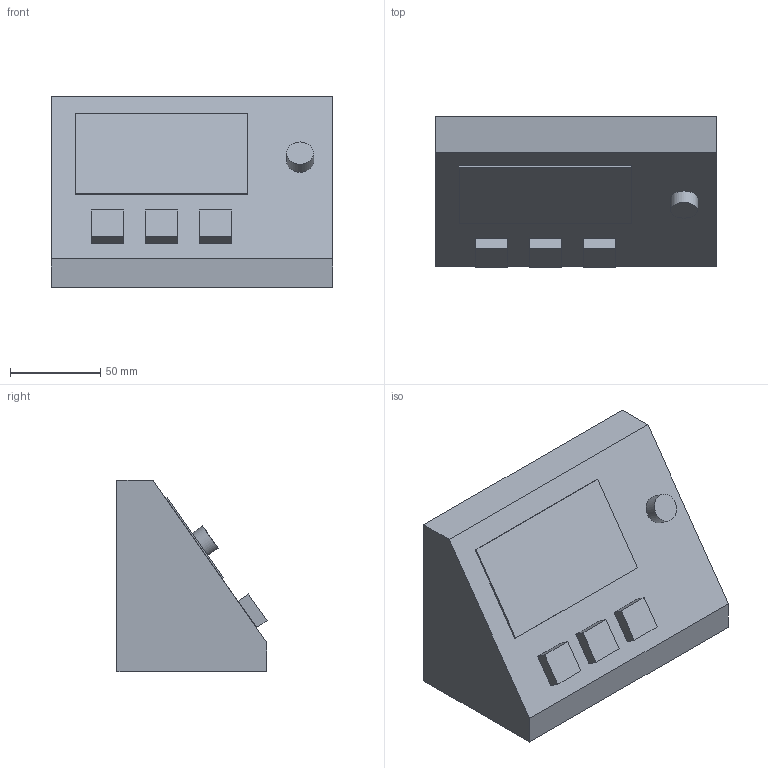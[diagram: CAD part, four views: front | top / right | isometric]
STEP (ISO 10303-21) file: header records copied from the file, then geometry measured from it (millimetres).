
FILE_DESCRIPTION(('Open CASCADE Model'),'2;1');
FILE_NAME('Open CASCADE Shape Model','2026-10-21T00:25:04',('Author'),( 'Open CASCADE'),'Open CASCADE STEP processor 7.9','Open CASCADE 7.9' ,'Unknown');
FILE_SCHEMA(('AUTOMOTIVE_DESIGN { 1 0 10303 214 1 1 1 1 }'));
Length unit declared in the file: millimetre
Products named in the file (13): SpotifyDeskRevB_sharp; case; display_envelope; visible; knob; encoder_envelope; aw9523b; keycap_1; switch_envelope_1; keycap_2; switch_envelope_2; keycap_3; switch_envelope_3
Assembly tree (12 placements, depth 2):
  SpotifyDeskRevB_sharp
    case
    display_envelope
    visible
    knob
    encoder_envelope
    aw9523b
    keycap_1
    switch_envelope_1
    keycap_2
    switch_envelope_2
    keycap_3
    switch_envelope_3
Bounding box: 156 x 83.26 x 106.11 mm (x, y, z)
Volume: 215214.2 mm3; surface area: 134812.2 mm2
Topology: 12 solids, 12 shells, 98 faces, 216 edges, 144 vertices
Faces by surface type: plane 96, cylinder 2
Full cylindrical faces by diameter (mm): 7.3 x1, 15.1 x1
Entity records: 5703 total; most frequent: CARTESIAN_POINT 989, DIRECTION 793, LINE 560, VECTOR 560, ORIENTED_EDGE 432, PCURVE 432, DEFINITIONAL_REPRESENTATION 432, EDGE_CURVE 216
